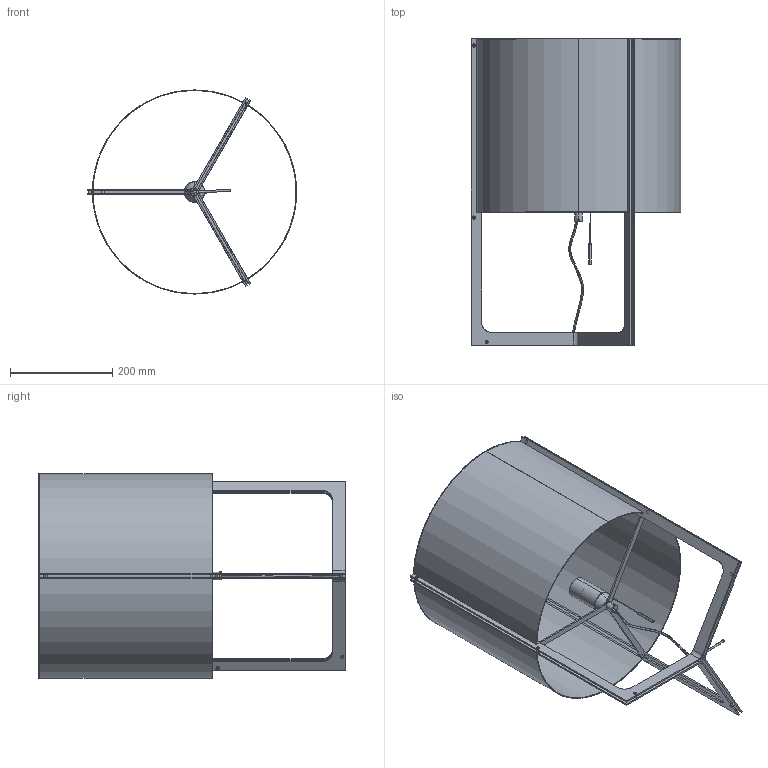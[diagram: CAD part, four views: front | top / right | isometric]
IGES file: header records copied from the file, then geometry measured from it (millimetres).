
Start section: SolidWorks IGES file using analytic representation for surfaces
Global section: file name: C:\Users\libre2.DOMINIO\Desktop\CARPYEN\3D\GABRIEL TEIXIDO\NIRVANA\nirvana_40\NIRVANA 40_table.IGS; native system: SolidWorks 2014; preprocessor: SolidWorks 2014; author: libre2; date: 160314.105514; units: millimetre
Bounding box: 410 x 600 x 400 mm (x, y, z)
Surface area: 1087215.1 mm2 (no closed solid volume)
Topology: 0 solids, 0 shells, 413 faces, 5330 edges, 5270 vertices
Faces by surface type: bspline 217, revolution 196
